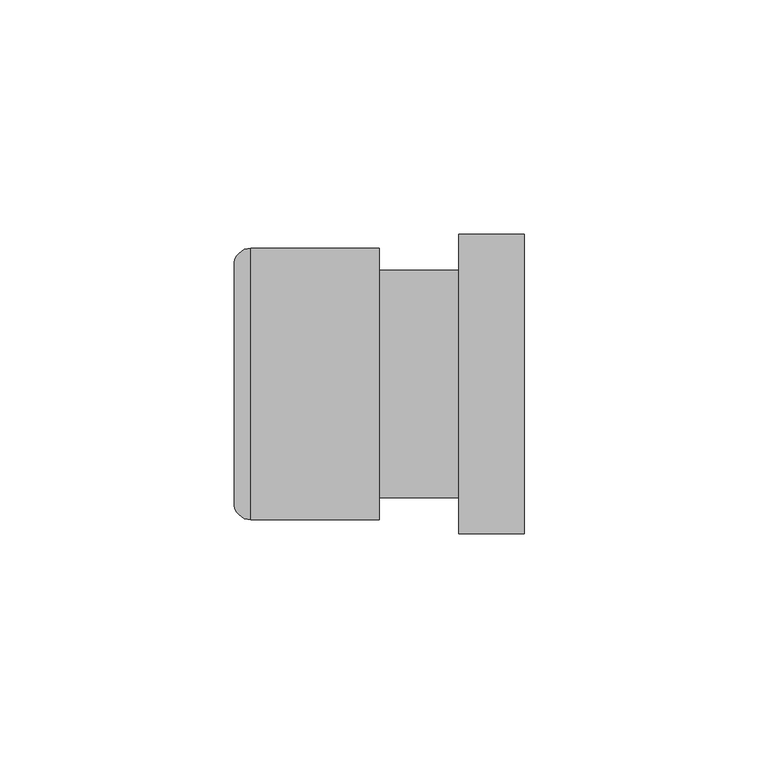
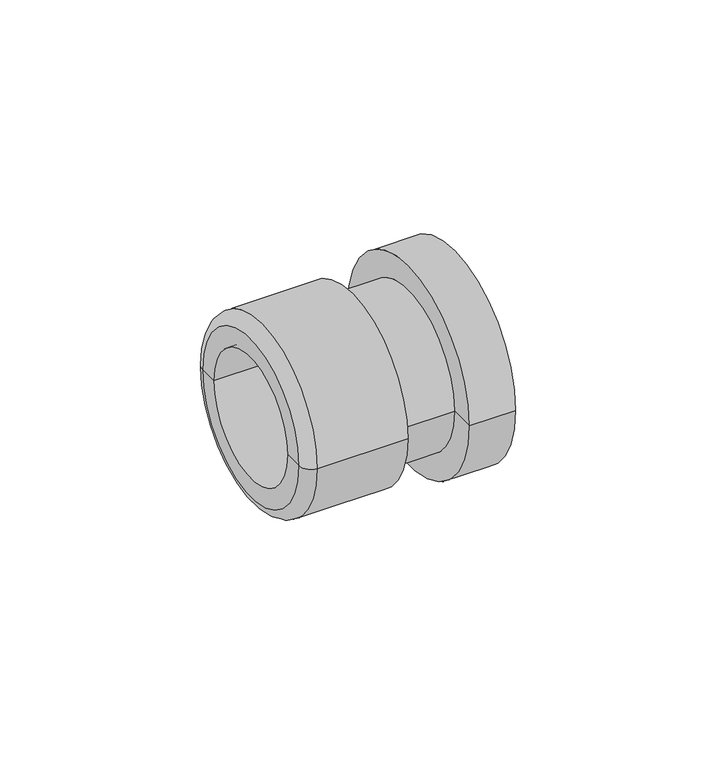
"""IFC4 building model written with IfcOpenShell, lengths in millimetres: cable carrier fitting geometry."""

from ifc_helpers import new_model, si_unit, point, frame, origin, place, context, project, spatial, polyline, circle_curve, ellipse_curve, trimmed, source, transform, mapped, element, save
from ifc_brep_helpers import plane_surface, cylinder_surface, revolved_surface, advanced_brep


def cable_carrier_fitting_307e7997(model_context):
    return source(origin(), model_context, "Body", "AdvancedBrep", [
        advanced_brep(
        [(0.0, -29.0, 0.0), (0.0, 29.0, 0.0), (0.0, 24.25, 0.0), (0.0, -24.25, 0.0), (-27.439955, -29.0, 0.0), (-27.439955, 29.0, 0.0), (-31.0, -25.439955, 0.0), (-31.0, 25.439955, 0.0), (-31.0, -19.5, 0.0), (-31.0, 19.5, 0.0), (31.0, -19.5, 0.0), (31.0, 19.5, 0.0), (31.0, -32.0, 0.0), (31.0, 32.0, 0.0), (17.0, -32.0, 0.0), (17.0, 32.0, 0.0), (17.0, -24.25, 0.0), (17.0, 24.25, 0.0)],
        [
            (0, 1, circle_curve(frame((0.0, 0.0, 0.0), z_axis=(1.0, 0.0, 0.0), x_axis=(0.0, 1.0, 0.0)), 29.0)),
            (1, 2),
            (2, 3, circle_curve(frame((0.0, 0.0, 0.0), z_axis=(-1.0, 0.0, 0.0), x_axis=(0.0, 1.0, 0.0)), 24.25)),
            (3, 0),
            (1, 0, circle_curve(frame((0.0, 0.0, 0.0), z_axis=(1.0, 0.0, 0.0), x_axis=(0.0, 1.0, 0.0)), 29.0)),
            (3, 2, circle_curve(frame((0.0, 0.0, 0.0), z_axis=(-1.0, 0.0, 0.0), x_axis=(0.0, 1.0, 0.0)), 24.25)),
            (4, 5, circle_curve(frame((-27.439955, 0.0, 0.0), z_axis=(1.0, 0.0, 0.0), x_axis=(0.0, 1.0, 0.0)), 29.0)),
            (5, 1),
            (0, 4),
            (5, 4, circle_curve(frame((-27.439955, 0.0, 0.0), z_axis=(1.0, 0.0, 0.0), x_axis=(0.0, 1.0, 0.0)), 29.0)),
            (6, 7, circle_curve(frame((-31.0, 0.0, 0.0), z_axis=(1.0, 0.0, 0.0), x_axis=(0.0, 1.0, 0.0)), 25.439955)),
            (7, 5, circle_curve(frame((-27.439955, 25.439955, 0.0), z_axis=(0.0, 0.0, -1.0), x_axis=(1.0, 0.0, 0.0)), 3.560045)),
            (4, 6, circle_curve(frame((-27.439955, -25.439955, 0.0), z_axis=(0.0, 0.0, -1.0), x_axis=(1.0, 0.0, 0.0)), 3.560045)),
            (7, 6, circle_curve(frame((-31.0, 0.0, 0.0), z_axis=(1.0, 0.0, 0.0), x_axis=(0.0, 1.0, 0.0)), 25.439955)),
            (8, 9, circle_curve(frame((-31.0, 0.0, 0.0), z_axis=(1.0, 0.0, 0.0), x_axis=(0.0, 1.0, 0.0)), 19.5)),
            (9, 7),
            (6, 8),
            (9, 8, circle_curve(frame((-31.0, 0.0, 0.0), z_axis=(1.0, 0.0, 0.0), x_axis=(0.0, 1.0, 0.0)), 19.5)),
            (10, 11, circle_curve(frame((31.0, 0.0, 0.0), z_axis=(1.0, 0.0, 0.0), x_axis=(0.0, 1.0, 0.0)), 19.5)),
            (11, 9),
            (8, 10),
            (11, 10, circle_curve(frame((31.0, 0.0, 0.0), z_axis=(1.0, 0.0, 0.0), x_axis=(0.0, 1.0, 0.0)), 19.5)),
            (12, 13, circle_curve(frame((31.0, 0.0, 0.0), z_axis=(1.0, 0.0, 0.0), x_axis=(0.0, 1.0, 0.0)), 32.0)),
            (13, 11),
            (10, 12),
            (13, 12, circle_curve(frame((31.0, 0.0, 0.0), z_axis=(1.0, 0.0, 0.0), x_axis=(0.0, 1.0, 0.0)), 32.0)),
            (14, 15, circle_curve(frame((17.0, 0.0, 0.0), z_axis=(1.0, 0.0, 0.0), x_axis=(0.0, 1.0, 0.0)), 32.0)),
            (15, 13),
            (12, 14),
            (15, 14, circle_curve(frame((17.0, 0.0, 0.0), z_axis=(1.0, 0.0, 0.0), x_axis=(0.0, 1.0, 0.0)), 32.0)),
            (16, 17, circle_curve(frame((17.0, 0.0, 0.0), z_axis=(1.0, 0.0, 0.0), x_axis=(0.0, 1.0, 0.0)), 24.25)),
            (17, 15),
            (14, 16),
            (17, 16, circle_curve(frame((17.0, 0.0, 0.0), z_axis=(1.0, 0.0, 0.0), x_axis=(0.0, 1.0, 0.0)), 24.25)),
            (2, 17),
            (16, 3),
        ],
        [
            plane_surface(frame((0.0, 0.0, 0.0), z_axis=(1.0, 0.0, 0.0), x_axis=(0.0, 1.0, 0.0))),
            cylinder_surface(frame((1555.4, 0.0, 0.0), z_axis=(-1.0, 0.0, 0.0), x_axis=(0.0, 1.0, 0.0)), 29.0),
            revolved_surface(trimmed(ellipse_curve(frame((-27.439955, 25.439955, 0.0), z_axis=(0.0, 0.0, 1.0), x_axis=(1.0, 0.0, 0.0)), 3.560045, 3.560045), [point((-27.439955, 29.0, 0.0))], [point((-31.0, 25.439955, 0.0))], True, "CARTESIAN"), (1555.4, 0.0, 0.0), (-1.0, 0.0, 0.0)),
            plane_surface(frame((-31.0, 0.0, 0.0), z_axis=(-1.0, 0.0, 0.0), x_axis=(0.0, 1.0, 0.0))),
            revolved_surface(polyline([(-31.0, 19.5, 0.0), (31.0, 19.5, 0.0)]), (1555.4, 0.0, 0.0), (-1.0, 0.0, 0.0)),
            plane_surface(frame((31.0, 0.0, 0.0), z_axis=(1.0, 0.0, 0.0), x_axis=(0.0, 1.0, 0.0))),
            cylinder_surface(frame((1555.4, 0.0, 0.0), z_axis=(-1.0, 0.0, 0.0), x_axis=(0.0, 1.0, 0.0)), 32.0),
            plane_surface(frame((17.0, 0.0, 0.0), z_axis=(-1.0, 0.0, 0.0), x_axis=(0.0, 1.0, 0.0))),
            cylinder_surface(frame((1555.4, 0.0, 0.0), z_axis=(-1.0, 0.0, 0.0), x_axis=(0.0, 1.0, 0.0)), 24.25),
        ],
        [
            (0, [[1, 2, 3, 4]]),
            (0, [[5, -4, 6, -2]]),
            (1, [[7, 8, -1, 9]]),
            (1, [[10, -9, -5, -8]]),
            (2, [[11, 12, -7, 13]]),
            (2, [[14, -13, -10, -12]]),
            (3, [[15, 16, -11, 17]]),
            (3, [[18, -17, -14, -16]]),
            (4, [[19, 20, -15, 21]]),
            (4, [[22, -21, -18, -20]]),
            (5, [[23, 24, -19, 25]]),
            (5, [[26, -25, -22, -24]]),
            (6, [[27, 28, -23, 29]]),
            (6, [[30, -29, -26, -28]]),
            (7, [[31, 32, -27, 33]]),
            (7, [[34, -33, -30, -32]]),
            (8, [[-3, 35, -31, 36]]),
            (8, [[-6, -36, -34, -35]]),
        ],
    ),
    ])


if __name__ == "__main__":
    model = new_model("IFC4")
    model_context = context("Model", 3, world=origin())
    ifc_project = project(units=[si_unit("LENGTHUNIT", "METRE", prefix="MILLI")], contexts=[model_context])
    site = spatial("IfcSite", under=ifc_project)
    building = spatial("IfcBuilding", under=site)
    placement = place(None, origin())
    cable_carrier_fitting_shape = cable_carrier_fitting_307e7997(model_context)
    element("IfcCableCarrierFitting", 1, at=placement, inside=building, context=model_context, shape_type="MappedRepresentation", body=[
        mapped(cable_carrier_fitting_shape, transform((0.0, 0.0, 0.0), x_axis=(1.0, 0.0, 0.0), y_axis=(0.0, 1.0, 0.0), z_axis=(0.0, 0.0, 1.0))),
    ])
    save(model, "model.ifc")
